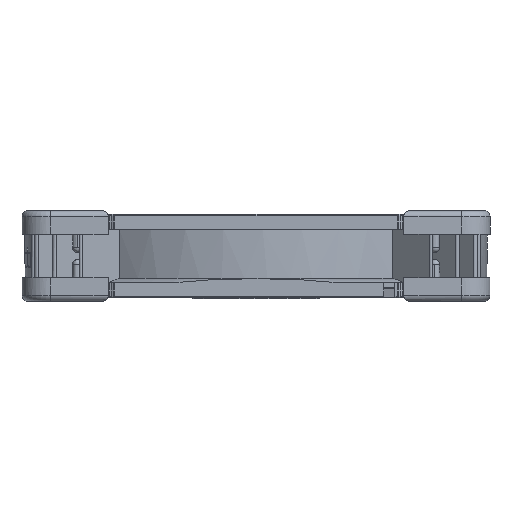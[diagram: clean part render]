
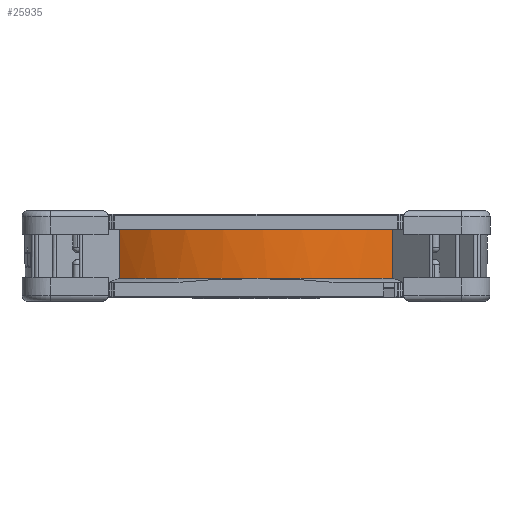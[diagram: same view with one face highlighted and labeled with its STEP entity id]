
A CAD part, left-side view. The second image highlights one B-rep face of the part: STEP entity #25935.
In plain terms, the highlighted conical face has half-angle 1.028 degrees and reference radius 69.197 mm.
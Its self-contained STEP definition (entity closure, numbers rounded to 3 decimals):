
#3572=CONICAL_SURFACE('',#27966,69.197,0.018);
#5067=B_SPLINE_CURVE_WITH_KNOTS('',3,(#42312,#42313,#42314,#42315,#42316,
#42317,#42318,#42319,#42320,#42321,#42322,#42323,#42324,#42325,#42326,#42327,
#42328,#42329,#42330,#42331,#42332,#42333,#42334,#42335,#42336,#42337,#42338,
#42339,#42340,#42341,#42342,#42343,#42344,#42345,#42346),.UNSPECIFIED.,
 .F.,.F.,(4,1,1,1,1,1,1,1,1,1,1,1,1,1,1,1,1,1,1,1,1,1,1,1,1,1,1,1,1,1,1,
1,4),(0.,0.063,0.094,0.109,0.125,0.141,0.156,0.188,0.219,
0.25,0.281,0.313,0.344,0.375,0.406,0.438,0.5,0.563,0.594,0.625,
0.656,0.688,0.719,0.75,0.781,0.813,0.844,0.859,0.875,0.891,
0.906,0.938,1.),.UNSPECIFIED.);
#5112=B_SPLINE_CURVE_WITH_KNOTS('',3,(#42724,#42725,#42726,#42727),
 .UNSPECIFIED.,.F.,.F.,(4,4),(0.,1.),.UNSPECIFIED.);
#5113=B_SPLINE_CURVE_WITH_KNOTS('',3,(#42729,#42730,#42731,#42732),
 .UNSPECIFIED.,.F.,.F.,(4,4),(0.,1.),.UNSPECIFIED.);
#5114=B_SPLINE_CURVE_WITH_KNOTS('',3,(#42734,#42735,#42736,#42737,#42738,
#42739,#42740),.UNSPECIFIED.,.F.,.F.,(4,1,1,1,4),(0.,0.25,0.5,0.75,1.),
 .UNSPECIFIED.);
#9706=ORIENTED_EDGE('',*,*,#16413,.T.);
#9707=ORIENTED_EDGE('',*,*,#16330,.T.);
#9708=ORIENTED_EDGE('',*,*,#16414,.T.);
#9709=ORIENTED_EDGE('',*,*,#16415,.T.);
#16330=EDGE_CURVE('',#19923,#19922,#5067,.F.);
#16413=EDGE_CURVE('',#19983,#19923,#5112,.T.);
#16414=EDGE_CURVE('',#19922,#19984,#5113,.T.);
#16415=EDGE_CURVE('',#19984,#19983,#5114,.F.);
#19922=VERTEX_POINT('',#42311);
#19923=VERTEX_POINT('',#42347);
#19983=VERTEX_POINT('',#42728);
#19984=VERTEX_POINT('',#42733);
#22391=EDGE_LOOP('',(#9706,#9707,#9708,#9709));
#24129=FACE_BOUND('',#22391,.T.);
#25935=ADVANCED_FACE('',(#24129),#3572,.T.);
#27966=AXIS2_PLACEMENT_3D('',#42723,#30581,#30582);
#30581=DIRECTION('',(0.,0.,1.));
#30582=DIRECTION('',(1.,0.,0.));
#42311=CARTESIAN_POINT('',(-55.847,40.857,20.5));
#42312=CARTESIAN_POINT('',(-55.847,40.857,20.5));
#42313=CARTESIAN_POINT('',(-56.88,39.445,20.5));
#42314=CARTESIAN_POINT('',(-58.344,37.276,20.5));
#42315=CARTESIAN_POINT('',(-59.899,34.666,20.5));
#42316=CARTESIAN_POINT('',(-60.749,33.142,20.5));
#42317=CARTESIAN_POINT('',(-61.353,32.01,20.5));
#42318=CARTESIAN_POINT('',(-61.981,30.775,20.5));
#42319=CARTESIAN_POINT('',(-62.768,29.149,20.5));
#42320=CARTESIAN_POINT('',(-63.695,27.086,20.5));
#42321=CARTESIAN_POINT('',(-64.708,24.568,20.5));
#42322=CARTESIAN_POINT('',(-65.608,22.052,20.5));
#42323=CARTESIAN_POINT('',(-66.454,19.354,20.5));
#42324=CARTESIAN_POINT('',(-67.176,16.678,20.5));
#42325=CARTESIAN_POINT('',(-67.793,13.962,20.5));
#42326=CARTESIAN_POINT('',(-68.296,11.246,20.5));
#42327=CARTESIAN_POINT('',(-68.7,8.431,20.5));
#42328=CARTESIAN_POINT('',(-69.082,4.7,20.5));
#42329=CARTESIAN_POINT('',(-69.273,0.,20.5));
#42330=CARTESIAN_POINT('',(-69.082,-4.7,20.5));
#42331=CARTESIAN_POINT('',(-68.701,-8.431,20.5));
#42332=CARTESIAN_POINT('',(-68.296,-11.246,20.5));
#42333=CARTESIAN_POINT('',(-67.793,-13.962,20.5));
#42334=CARTESIAN_POINT('',(-67.176,-16.678,20.5));
#42335=CARTESIAN_POINT('',(-66.454,-19.354,20.5));
#42336=CARTESIAN_POINT('',(-65.608,-22.052,20.5));
#42337=CARTESIAN_POINT('',(-64.708,-24.568,20.5));
#42338=CARTESIAN_POINT('',(-63.695,-27.086,20.5));
#42339=CARTESIAN_POINT('',(-62.768,-29.149,20.5));
#42340=CARTESIAN_POINT('',(-61.981,-30.775,20.5));
#42341=CARTESIAN_POINT('',(-61.353,-32.01,20.5));
#42342=CARTESIAN_POINT('',(-60.749,-33.142,20.5));
#42343=CARTESIAN_POINT('',(-59.899,-34.666,20.5));
#42344=CARTESIAN_POINT('',(-58.344,-37.276,20.5));
#42345=CARTESIAN_POINT('',(-56.88,-39.445,20.5));
#42346=CARTESIAN_POINT('',(-55.847,-40.857,20.5));
#42347=CARTESIAN_POINT('',(-55.847,-40.857,20.5));
#42723=CARTESIAN_POINT('',(0.,0.,20.5));
#42724=CARTESIAN_POINT('',(-55.658,-40.668,5.792));
#42725=CARTESIAN_POINT('',(-55.721,-40.731,10.694));
#42726=CARTESIAN_POINT('',(-55.784,-40.794,15.597));
#42727=CARTESIAN_POINT('',(-55.847,-40.857,20.5));
#42728=CARTESIAN_POINT('',(-55.658,-40.668,5.792));
#42729=CARTESIAN_POINT('',(-55.847,40.857,20.5));
#42730=CARTESIAN_POINT('',(-55.784,40.794,15.597));
#42731=CARTESIAN_POINT('',(-55.721,40.731,10.694));
#42732=CARTESIAN_POINT('',(-55.658,40.668,5.792));
#42733=CARTESIAN_POINT('',(-55.658,40.668,5.792));
#42734=CARTESIAN_POINT('',(-55.658,-40.668,5.792));
#42735=CARTESIAN_POINT('',(-59.935,-34.814,5.792));
#42736=CARTESIAN_POINT('',(-66.626,-21.748,5.792));
#42737=CARTESIAN_POINT('',(-70.086,0.,5.792));
#42738=CARTESIAN_POINT('',(-66.626,21.748,5.792));
#42739=CARTESIAN_POINT('',(-59.935,34.814,5.792));
#42740=CARTESIAN_POINT('',(-55.658,40.668,5.792));
